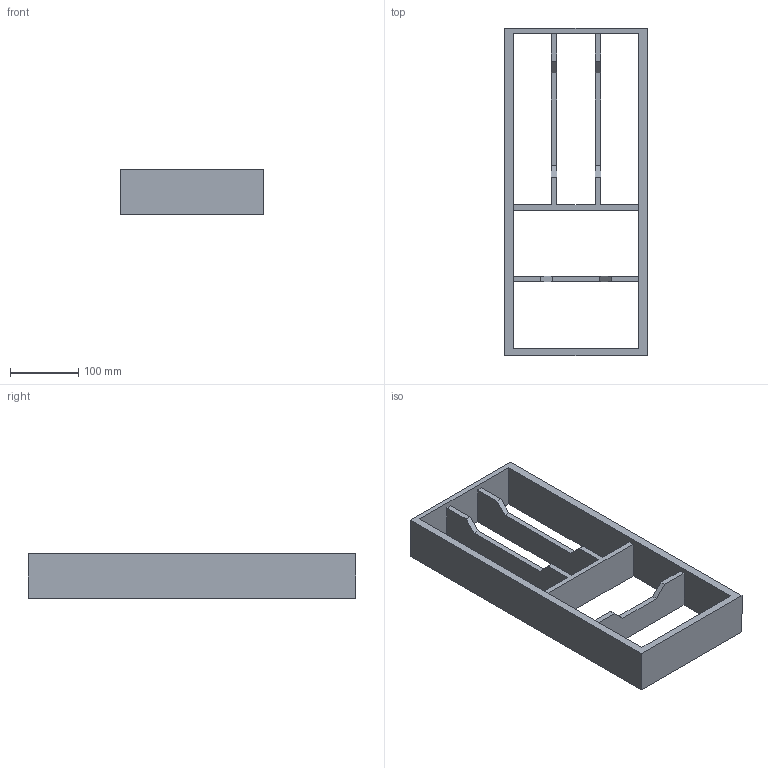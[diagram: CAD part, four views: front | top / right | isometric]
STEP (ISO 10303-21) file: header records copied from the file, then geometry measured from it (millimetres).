
FILE_DESCRIPTION (( 'STEP AP214' ), '1' );
FILE_NAME ('Vario Besteck fix NL500_B300_16mm_Buche.step', '2010-11-08T07:33:15', ( 'grass' ), ( '' ), 'SwSTEP 2.0', 'SolidWorks 2010', '' );
FILE_SCHEMA (( 'AUTOMOTIVE_DESIGN' ));
Length unit declared in the file: millimetre
Products named in the file (1): Vario Besteck fix NL500_B300_16mm_Buche
Bounding box: 208 x 479 x 65 mm (x, y, z)
Volume: 1316840 mm3; surface area: 299182 mm2
Topology: 1 solids, 1 shells, 34 faces, 108 edges, 72 vertices
Faces by surface type: plane 34
Entity records: 1226 total; most frequent: ORIENTED_EDGE 216, CARTESIAN_POINT 215, DIRECTION 178, VECTOR 108, LINE 108, EDGE_CURVE 108, VERTEX_POINT 72, EDGE_LOOP 40
